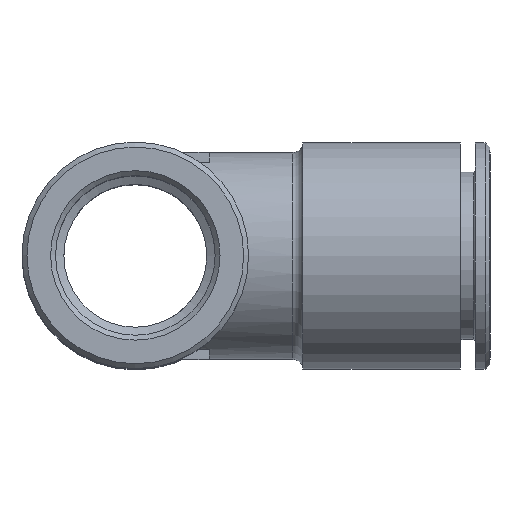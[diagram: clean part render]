
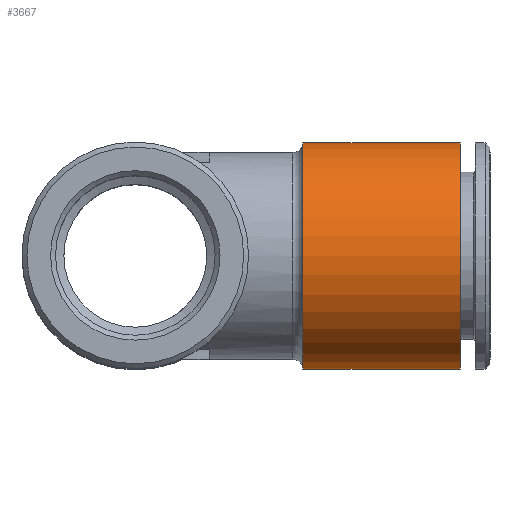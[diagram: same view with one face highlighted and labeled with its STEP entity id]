
A CAD part, top view. The second image highlights one B-rep face of the part: STEP entity #3667.
In plain terms, the highlighted cylindrical face has radius 11.5 mm (diameter 23 mm), a full revolution.
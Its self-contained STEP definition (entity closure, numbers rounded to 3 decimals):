
#1731=ORIENTED_EDGE('',*,*,#2171,.T.);
#1732=ORIENTED_EDGE('',*,*,#2172,.F.);
#1939=CIRCLE('',#3477,11.5);
#1940=CIRCLE('',#3479,11.5);
#2046=VERTEX_POINT('',#3194);
#2047=VERTEX_POINT('',#3197);
#2171=EDGE_CURVE('',#2046,#2046,#1939,.T.);
#2172=EDGE_CURVE('',#2047,#2047,#1940,.T.);
#2300=EDGE_LOOP('',(#1731));
#2301=EDGE_LOOP('',(#1732));
#2478=FACE_BOUND('',#2300,.T.);
#2479=FACE_BOUND('',#2301,.T.);
#2761=DIRECTION('',(1.,0.,0.));
#2762=DIRECTION('',(0.,-11.5,0.));
#2763=DIRECTION('',(1.,0.,0.));
#2764=DIRECTION('',(0.,-1.,0.));
#2765=DIRECTION('',(1.,0.,0.));
#2766=DIRECTION('',(0.,-11.5,0.));
#3194=CARTESIAN_POINT('',(26.048,-6.285,0.));
#3195=CARTESIAN_POINT('',(26.048,5.215,0.));
#3196=CARTESIAN_POINT('',(26.048,5.215,0.));
#3197=CARTESIAN_POINT('',(42.048,-6.285,0.));
#3198=CARTESIAN_POINT('',(42.048,5.215,0.));
#3477=AXIS2_PLACEMENT_3D('',#3195,#2761,#2762);
#3478=AXIS2_PLACEMENT_3D('',#3196,#2763,#2764);
#3479=AXIS2_PLACEMENT_3D('',#3198,#2765,#2766);
#3619=CYLINDRICAL_SURFACE('',#3478,11.5);
#3667=ADVANCED_FACE('',(#2478,#2479),#3619,.T.);
